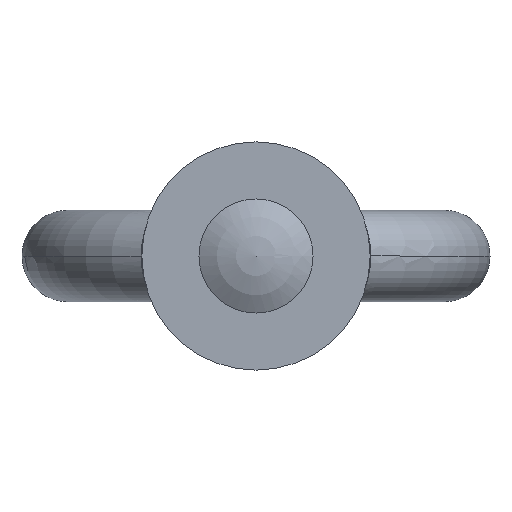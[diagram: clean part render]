
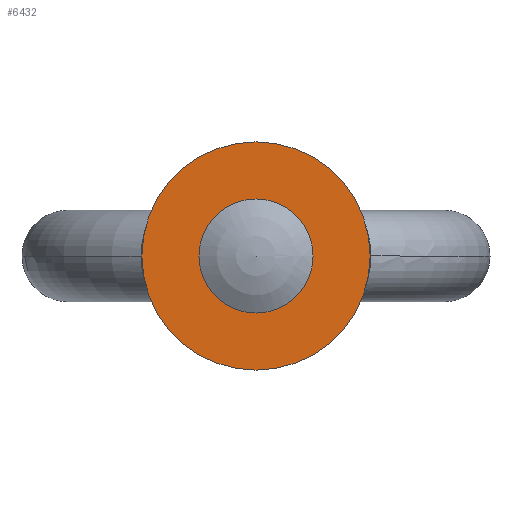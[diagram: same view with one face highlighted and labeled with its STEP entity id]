
A CAD part, front view. The second image highlights one B-rep face of the part: STEP entity #6432.
In plain terms, the highlighted planar face has unit normal (0, -1, 0).
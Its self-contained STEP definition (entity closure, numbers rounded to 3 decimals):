
#49 = VERTEX_POINT ( 'NONE', #6538 ) ;
#146 = EDGE_LOOP ( 'NONE', ( #6433, #6388 ) ) ;
#311 = EDGE_CURVE ( 'NONE', #984, #49, #1606, .T. ) ;
#984 = VERTEX_POINT ( 'NONE', #6211 ) ;
#1538 = CIRCLE ( 'NONE', #1539, 10. ) ;
#1539 = AXIS2_PLACEMENT_3D ( 'NONE', #1540, #1541, #1542 ) ;
#1540 = CARTESIAN_POINT ( 'NONE',  ( 0., -21., 0. ) ) ;
#1541 = DIRECTION ( 'NONE',  ( 0., 1., 0. ) ) ;
#1542 = DIRECTION ( 'NONE',  ( 0., 0., 1. ) ) ;
#1606 = CIRCLE ( 'NONE', #1607, 4.5 ) ;
#1607 = AXIS2_PLACEMENT_3D ( 'NONE', #1610, #1611, #1612 ) ;
#1609 = EDGE_CURVE ( 'NONE', #49, #984, #3522, .T. ) ;
#1610 = CARTESIAN_POINT ( 'NONE',  ( 0., -21., 0. ) ) ;
#1611 = DIRECTION ( 'NONE',  ( 0., 1., 0. ) ) ;
#1612 = DIRECTION ( 'NONE',  ( 0., 0., -1. ) ) ;
#3522 = CIRCLE ( 'NONE', #3523, 4.5 ) ;
#3523 = AXIS2_PLACEMENT_3D ( 'NONE', #3524, #3525, #3526 ) ;
#3524 = CARTESIAN_POINT ( 'NONE',  ( 0., -21., 0. ) ) ;
#3525 = DIRECTION ( 'NONE',  ( 0., 1., 0. ) ) ;
#3526 = DIRECTION ( 'NONE',  ( 0., 0., -1. ) ) ;
#4959 = CARTESIAN_POINT ( 'NONE',  ( 0., -21., -10. ) ) ;
#5575 = CIRCLE ( 'NONE', #5576, 10. ) ;
#5576 = AXIS2_PLACEMENT_3D ( 'NONE', #5577, #5578, #5579 ) ;
#5577 = CARTESIAN_POINT ( 'NONE',  ( 0., -21., 0. ) ) ;
#5578 = DIRECTION ( 'NONE',  ( 0., 1., 0. ) ) ;
#5579 = DIRECTION ( 'NONE',  ( 0., 0., 1. ) ) ;
#5791 = ORIENTED_EDGE ( 'NONE', *, *, #6499, .F. ) ;
#6137 = CARTESIAN_POINT ( 'NONE',  ( 0., -21., 10. ) ) ;
#6168 = FACE_BOUND ( 'NONE', #146, .T. ) ;
#6169 = FACE_OUTER_BOUND ( 'NONE', #6429, .T. ) ;
#6170 = PLANE ( 'NONE',  #6171 ) ;
#6171 = AXIS2_PLACEMENT_3D ( 'NONE', #6173, #6174, #6175 ) ;
#6173 = CARTESIAN_POINT ( 'NONE',  ( -10., -21., 0. ) ) ;
#6174 = DIRECTION ( 'NONE',  ( 0., -1., 0. ) ) ;
#6175 = DIRECTION ( 'NONE',  ( 0., 0., -1. ) ) ;
#6211 = CARTESIAN_POINT ( 'NONE',  ( 0., -21., -4.5 ) ) ;
#6388 = ORIENTED_EDGE ( 'NONE', *, *, #1609, .T. ) ;
#6403 = ORIENTED_EDGE ( 'NONE', *, *, #6428, .F. ) ;
#6428 = EDGE_CURVE ( 'NONE', #6485, #6430, #5575, .T. ) ;
#6429 = EDGE_LOOP ( 'NONE', ( #6403, #5791 ) ) ;
#6430 = VERTEX_POINT ( 'NONE', #6137 ) ;
#6432 = ADVANCED_FACE ( 'NONE', ( #6168, #6169 ), #6170, .T. ) ;
#6433 = ORIENTED_EDGE ( 'NONE', *, *, #311, .T. ) ;
#6485 = VERTEX_POINT ( 'NONE', #4959 ) ;
#6499 = EDGE_CURVE ( 'NONE', #6430, #6485, #1538, .T. ) ;
#6538 = CARTESIAN_POINT ( 'NONE',  ( 0., -21., 4.5 ) ) ;
